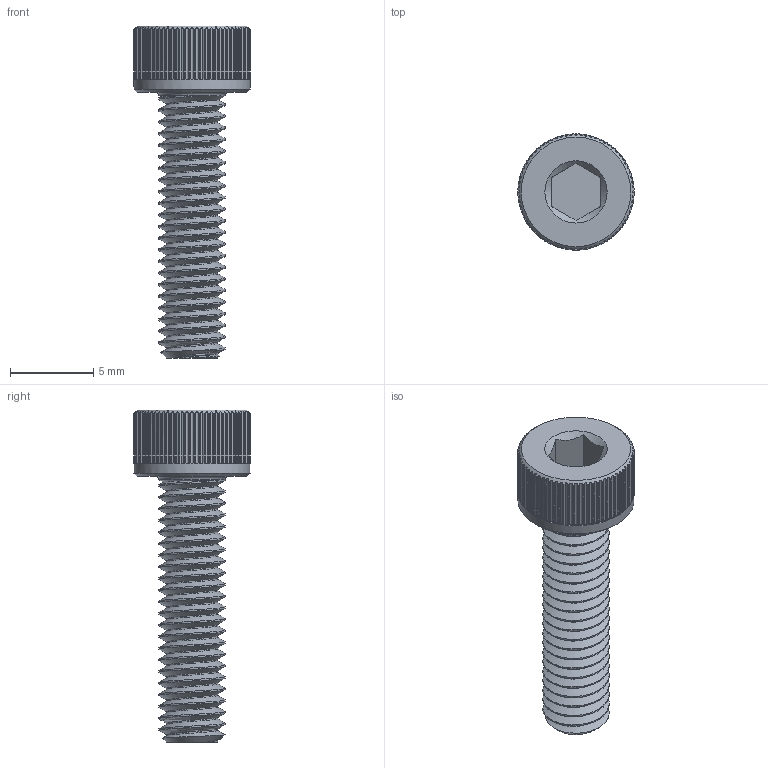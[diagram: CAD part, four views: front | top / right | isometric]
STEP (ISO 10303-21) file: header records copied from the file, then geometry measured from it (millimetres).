
FILE_DESCRIPTION(/* description */ ('STEP AP242 Edition 2','CAx-IF Rec.Pracs.---Representation and Presentation of Product Manufacturing Information (PMI)---4.0---2014-10-13','CAx-IF Rec.Pracs.---3D Tessellated Geometry---0.4---2014-09-14','2;1','CAx-IF Rec.Pracs.---User Defined Attributes---1.5---2016-08-15'),/* implementation_level */ '2;1');
FILE_NAME(/* name */ 'Assembly 1 - m4-16 (1)',/* time_stamp */ '2026-09-25T20:07:25Z',/* author */ (''),/* organization */ (''),/* preprocessor_version */ 'ST-DEVELOPER v20',/* originating_system */ 'ONSHAPE BY PTC INC, 1.221',/* authorisation */ ' ');
FILE_SCHEMA (('AP242_MANAGED_MODEL_BASED_3D_ENGINEERING_MIM_LF { 1 0 10303 442 3 1 4 }'));
Length unit declared in the file: metre
Products named in the file (1): m4*16
Bounding box: 7 x 7 x 20 mm (x, y, z)
Volume: 244.7 mm3; surface area: 434.6 mm2
Topology: 1 solids, 1 shells, 309 faces, 1003 edges, 698 vertices
Faces by surface type: plane 226, cylinder 75, cone 5, bspline 2, torus 1
Full cylindrical faces by diameter (mm): 7 x1
Entity records: 16368 total; most frequent: CARTESIAN_POINT 7937, ORIENTED_EDGE 1988, DIRECTION 1510, EDGE_CURVE 994, VERTEX_POINT 694, AXIS2_PLACEMENT_3D 533, LINE 444, VECTOR 444
